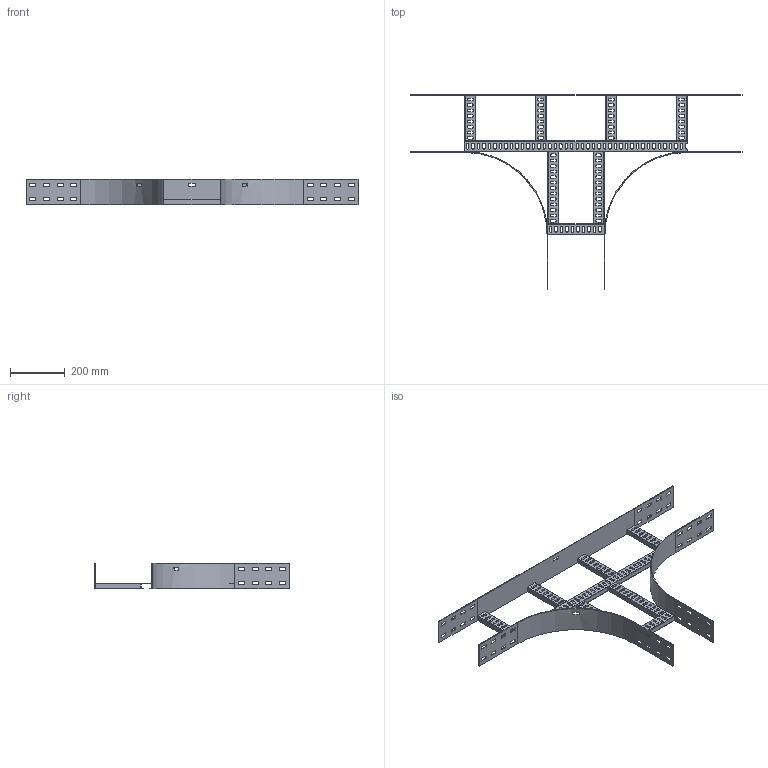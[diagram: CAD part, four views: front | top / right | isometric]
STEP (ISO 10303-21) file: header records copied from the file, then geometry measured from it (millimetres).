
FILE_DESCRIPTION(/* description */ ('','CAx-IF Rec.Pracs.---Representation and Presentation of Product Manufacturing Information (PMI)---4.0---2014-10-13'),/* implementation_level */ '2;1');
FILE_NAME(/* name */ 'Eurostrut_EET100-200-300_T-Piece for Cable Ladder ECL.step',/* time_stamp */ '2026-09-03T15:50:09+02:00',/* author */ (''),/* organization */ (''),/* preprocessor_version */ 'ST-DEVELOPER v20.1',/* originating_system */ 'Autodesk Revit 2027 27.2.0.39',/* authorisation */ '');
FILE_SCHEMA (('AP242_MANAGED_MODEL_BASED_3D_ENGINEERING_MIM_LF { 1 0 10303 442 2 1 4 }'));
Length unit declared in the file: millimetre
Products named in the file (9): TopLevelAssembly; Sweep; Sweep_1; Eurostrut_Cable Ladder_Rung_With slots; Eurostrut_Cable Ladder_Rung_With slots_1; Eurostrut_Cable Ladder_Rung Array Straight_Slotted; Eurostrut_Cable Ladder_Rung Array Straight_Slotted_1; Sweep_2; Eurostrut_Cable Ladder_Accessory End_54-94-142
Assembly tree (13 placements, depth 2):
  TopLevelAssembly
    Sweep
    Sweep_1
    Eurostrut_Cable Ladder_Rung_With slots
    Eurostrut_Cable Ladder_Rung_With slots_1
    Eurostrut_Cable Ladder_Rung Array Straight_Slotted
    Eurostrut_Cable Ladder_Rung Array Straight_Slotted_1
    Sweep_2
    Eurostrut_Cable Ladder_Accessory End_54-94-142  x6
Bounding box: 1211 x 711 x 94.04 mm (x, y, z)
Volume: 1067081.5 mm3; surface area: 942079.6 mm2
Topology: 17 solids, 17 shells, 838 faces, 2412 edges, 1608 vertices
Faces by surface type: plane 584, bspline 218, cylinder 36
Entity records: 28094 total; most frequent: CARTESIAN_POINT 10484, ORIENTED_EDGE 3744, DIRECTION 3292, EDGE_CURVE 1872, LINE 1356, VECTOR 1356, VERTEX_POINT 1248, AXIS2_PLACEMENT_3D 968
